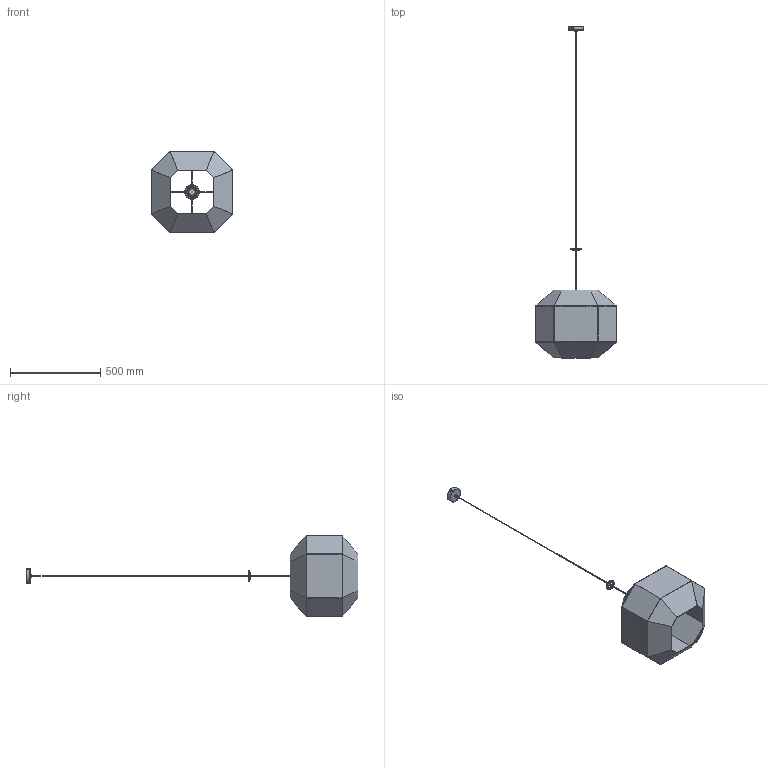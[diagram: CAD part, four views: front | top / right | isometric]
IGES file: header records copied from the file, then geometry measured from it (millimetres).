
Start section: SolidWorks IGES file using analytic representation for surfaces
Global section: file name: C:\Users\danielet\Desktop\3D ANDONI\CATALOGO DECO\BAUHAUS-3917-3D\BAUHAUS-3917-3D.IGS; native system: SolidWorks 2018; preprocessor: SolidWorks 2018; author: danielet; date: 210121.075720; units: millimetre
Bounding box: 450 x 1840 x 450 mm (x, y, z)
Surface area: 1392067.3 mm2 (no closed solid volume)
Topology: 0 solids, 0 shells, 360 faces, 6558 edges, 6558 vertices
Faces by surface type: revolution 221, bspline 139
